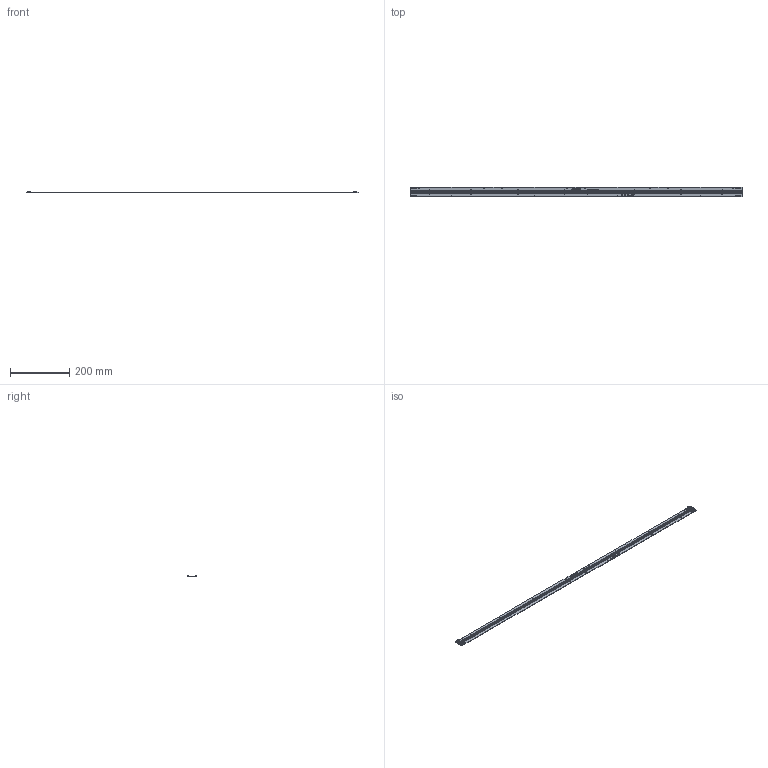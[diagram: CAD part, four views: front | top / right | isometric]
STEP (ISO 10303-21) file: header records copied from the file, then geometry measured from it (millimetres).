
FILE_DESCRIPTION (( 'STEP AP214' ), '1' );
FILE_NAME ('BXEB-TL-L1120Z ver. A (15-000717 revB.STEP', '2020-11-03T04:58:56', ( '' ), ( '' ), 'SwSTEP 2.0', 'SolidWorks 2020', '' );
FILE_SCHEMA (( 'AUTOMOTIVE_DESIGN' ));
Length unit declared in the file: millimetre
Products named in the file (1): BXEB-TL-L1120Z ver. A (15-000717 revB
Bounding box: 1120 x 31 x 5.55 mm (x, y, z)
Volume: 59981.4 mm3; surface area: 89985.4 mm2
Topology: 565 solids, 565 shells, 12078 faces, 30559 edges, 20414 vertices
Faces by surface type: plane 10943, bspline 865, cylinder 262, cone 8
Full cylindrical faces by diameter (mm): 0.597 x1, 1.019 x1, 1.102 x16, 2 x4
Entity records: 527294 total; most frequent: CARTESIAN_POINT 105207, ORIENTED_EDGE 61042, DIRECTION 50467, EDGE_CURVE 30521, VECTOR 27799, LINE 27799, VERTEX_POINT 20406, EDGE_LOOP 12911
